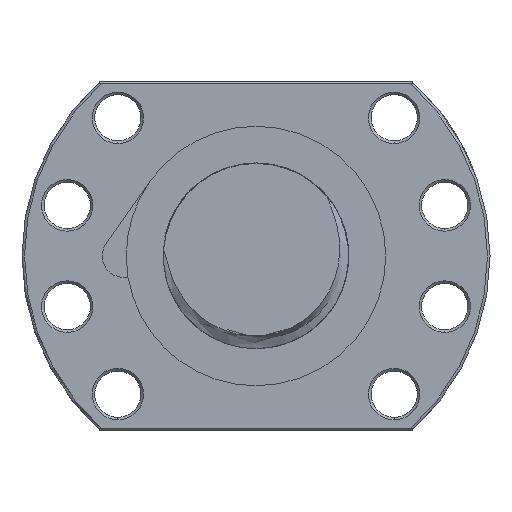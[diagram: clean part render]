
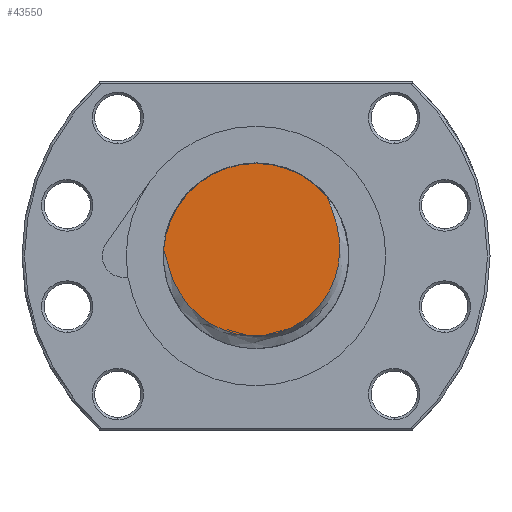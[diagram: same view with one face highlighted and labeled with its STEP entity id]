
A CAD part, left-side view. The second image highlights one B-rep face of the part: STEP entity #43550.
In plain terms, the highlighted planar face has unit normal (-1, 0, 0).
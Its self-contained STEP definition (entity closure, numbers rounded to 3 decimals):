
#29563 = CARTESIAN_POINT ( 'NONE',  ( -203., 0., 18. ) ) ;
#29564 = CARTESIAN_POINT ( 'NONE',  ( -203., 17.958, 1.228 ) ) ;
#29565 = DIRECTION ( 'NONE',  ( 0., 1., 0. ) ) ;
#29566 = DIRECTION ( 'NONE',  ( 1., 0., 0. ) ) ;
#29567 = AXIS2_PLACEMENT_3D ( 'NONE', #29573, #29566, #29565 ) ;
#29568 = CIRCLE ( 'NONE', #29567, 18. ) ;
#29573 = CARTESIAN_POINT ( 'NONE',  ( -203., 0., 0. ) ) ;
#32551 = CARTESIAN_POINT ( 'NONE',  ( -203., -13.808, 11.548 ) ) ;
#32552 = DIRECTION ( 'NONE',  ( 0., 1., 0. ) ) ;
#32553 = DIRECTION ( 'NONE',  ( 1., 0., 0. ) ) ;
#32554 = AXIS2_PLACEMENT_3D ( 'NONE', #32559, #32553, #32552 ) ;
#32555 = CIRCLE ( 'NONE', #32554, 18. ) ;
#32559 = CARTESIAN_POINT ( 'NONE',  ( -203., 0., 0. ) ) ;
#34564 = AXIS2_PLACEMENT_3D ( 'NONE', #34632, #34631, #34630 ) ;
#34566 = PLANE ( 'NONE',  #34564 ) ;
#34567 = FACE_OUTER_BOUND ( 'NONE', #43551, .T. ) ;
#34594 = CARTESIAN_POINT ( 'NONE',  ( -203., -3.482, -15.146 ) ) ;
#34595 = CARTESIAN_POINT ( 'NONE',  ( -203., -2.187, -15.395 ) ) ;
#34596 = CARTESIAN_POINT ( 'NONE',  ( -203., -1.527, -15.481 ) ) ;
#34597 = CARTESIAN_POINT ( 'NONE',  ( -203., 0.466, -15.619 ) ) ;
#34598 = CARTESIAN_POINT ( 'NONE',  ( -203., 1.781, -15.549 ) ) ;
#34599 = CARTESIAN_POINT ( 'NONE',  ( -203., 3.406, -15.267 ) ) ;
#34600 = CARTESIAN_POINT ( 'NONE',  ( -203., 3.73, -15.201 ) ) ;
#34601 = CARTESIAN_POINT ( 'NONE',  ( -203., 4.376, -15.049 ) ) ;
#34602 = CARTESIAN_POINT ( 'NONE',  ( -203., 4.699, -14.962 ) ) ;
#34603 = CARTESIAN_POINT ( 'NONE',  ( -203., 5.654, -14.676 ) ) ;
#34604 = CARTESIAN_POINT ( 'NONE',  ( -203., 6.273, -14.449 ) ) ;
#34605 = CARTESIAN_POINT ( 'NONE',  ( -203., 7.479, -13.925 ) ) ;
#34606 = CARTESIAN_POINT ( 'NONE',  ( -203., 8.066, -13.628 ) ) ;
#34607 = CARTESIAN_POINT ( 'NONE',  ( -203., 8.921, -13.131 ) ) ;
#34608 = CARTESIAN_POINT ( 'NONE',  ( -203., 9.202, -12.957 ) ) ;
#34609 = CARTESIAN_POINT ( 'NONE',  ( -203., 9.755, -12.591 ) ) ;
#34610 = CARTESIAN_POINT ( 'NONE',  ( -203., 10.029, -12.398 ) ) ;
#34611 = CARTESIAN_POINT ( 'NONE',  ( -203., 11.359, -11.403 ) ) ;
#34612 = CARTESIAN_POINT ( 'NONE',  ( -203., 12.314, -10.498 ) ) ;
#34613 = CARTESIAN_POINT ( 'NONE',  ( -203., 13.381, -9.24 ) ) ;
#34614 = CARTESIAN_POINT ( 'NONE',  ( -203., 13.588, -8.982 ) ) ;
#34615 = CARTESIAN_POINT ( 'NONE',  ( -203., 13.989, -8.453 ) ) ;
#34616 = CARTESIAN_POINT ( 'NONE',  ( -203., 14.184, -8.182 ) ) ;
#34617 = CARTESIAN_POINT ( 'NONE',  ( -203., 14.742, -7.357 ) ) ;
#34618 = CARTESIAN_POINT ( 'NONE',  ( -203., 15.081, -6.793 ) ) ;
#34619 = CARTESIAN_POINT ( 'NONE',  ( -203., 16.008, -5.06 ) ) ;
#34620 = CARTESIAN_POINT ( 'NONE',  ( -203., 16.506, -3.85 ) ) ;
#34621 = CARTESIAN_POINT ( 'NONE',  ( -203., 17.11, -1.973 ) ) ;
#34622 = CARTESIAN_POINT ( 'NONE',  ( -203., 17.287, -1.336 ) ) ;
#34623 = CARTESIAN_POINT ( 'NONE',  ( -203., 17.535, -0.373 ) ) ;
#34624 = CARTESIAN_POINT ( 'NONE',  ( -203., 17.614, -0.051 ) ) ;
#34625 = CARTESIAN_POINT ( 'NONE',  ( -203., 17.777, 0.591 ) ) ;
#34626 = CARTESIAN_POINT ( 'NONE',  ( -203., 17.859, 0.912 ) ) ;
#34627 = CARTESIAN_POINT ( 'NONE',  ( -203., 17.958, 1.228 ) ) ;
#34628 = B_SPLINE_CURVE_WITH_KNOTS ( 'NONE', 3,
 ( #34627, #34626, #34625, #34624, #34623, #34622, #34621, #34620, #34619, #34618, #34617, #34616, #34615, #34614, #34613, #34612, #34611, #34610, #34609, #34608, #34607, #34606, #34605, #34604, #34603, #34602, #34601, #34600, #34599, #34598, #34597, #34596, #34595, #34594, #34675, #34674, #34673, #34672, #34671, #34670, #34669, #34668, #34667, #34666, #34665, #34664, #34663, #34662, #34661, #34660, #34659, #34658, #34657, #34656, #34655, #34654, #34653, #34652, #34651, #34650, #34649, #34648, #34647, #34646, #34645, #34644, #34643, #34642, #34641, #34640 ),
 .UNSPECIFIED., .F., .F.,
 ( 4, 2, 2, 2, 2, 2, 2, 2, 2, 2, 2, 2, 2, 2, 2, 2, 2, 2, 2, 2, 2, 2, 2, 2, 2, 2, 2, 2, 2, 2, 2, 2, 2, 2, 4 ),
 ( 0.001, 0.002, 0.003, 0.005, 0.009, 0.011, 0.012, 0.013, 0.017, 0.018, 0.019, 0.021, 0.023, 0.024, 0.025, 0.028, 0.03, 0.032, 0.034, 0.036, 0.038, 0.039, 0.04, 0.044, 0.046, 0.048, 0.05, 0.051, 0.052, 0.056, 0.058, 0.06, 0.062, 0.063, 0.064 ),
 .UNSPECIFIED. ) ;
#34630 = DIRECTION ( 'NONE',  ( 0., 0., -1. ) ) ;
#34631 = DIRECTION ( 'NONE',  ( 1., 0., 0. ) ) ;
#34632 = CARTESIAN_POINT ( 'NONE',  ( -203., 0., 0. ) ) ;
#34640 = CARTESIAN_POINT ( 'NONE',  ( -203., -13.808, 11.548 ) ) ;
#34641 = CARTESIAN_POINT ( 'NONE',  ( -203., -13.914, 11.232 ) ) ;
#34642 = CARTESIAN_POINT ( 'NONE',  ( -203., -14.037, 10.923 ) ) ;
#34643 = CARTESIAN_POINT ( 'NONE',  ( -203., -14.283, 10.305 ) ) ;
#34644 = CARTESIAN_POINT ( 'NONE',  ( -203., -14.409, 9.996 ) ) ;
#34645 = CARTESIAN_POINT ( 'NONE',  ( -203., -14.775, 9.068 ) ) ;
#34646 = CARTESIAN_POINT ( 'NONE',  ( -203., -15.007, 8.443 ) ) ;
#34647 = CARTESIAN_POINT ( 'NONE',  ( -203., -15.421, 7.181 ) ) ;
#34648 = CARTESIAN_POINT ( 'NONE',  ( -203., -15.603, 6.543 ) ) ;
#34649 = CARTESIAN_POINT ( 'NONE',  ( -203., -15.906, 5.251 ) ) ;
#34650 = CARTESIAN_POINT ( 'NONE',  ( -203., -16.027, 4.595 ) ) ;
#34651 = CARTESIAN_POINT ( 'NONE',  ( -203., -16.29, 2.621 ) ) ;
#34652 = CARTESIAN_POINT ( 'NONE',  ( -203., -16.331, 1.304 ) ) ;
#34653 = CARTESIAN_POINT ( 'NONE',  ( -203., -16.2, -0.343 ) ) ;
#34654 = CARTESIAN_POINT ( 'NONE',  ( -203., -16.165, -0.672 ) ) ;
#34655 = CARTESIAN_POINT ( 'NONE',  ( -203., -16.075, -1.331 ) ) ;
#34656 = CARTESIAN_POINT ( 'NONE',  ( -203., -16.021, -1.661 ) ) ;
#34657 = CARTESIAN_POINT ( 'NONE',  ( -203., -15.831, -2.638 ) ) ;
#34658 = CARTESIAN_POINT ( 'NONE',  ( -203., -15.67, -3.277 ) ) ;
#34659 = CARTESIAN_POINT ( 'NONE',  ( -203., -15.274, -4.533 ) ) ;
#34660 = CARTESIAN_POINT ( 'NONE',  ( -203., -15.041, -5.15 ) ) ;
#34661 = CARTESIAN_POINT ( 'NONE',  ( -203., -14.5, -6.358 ) ) ;
#34662 = CARTESIAN_POINT ( 'NONE',  ( -203., -14.191, -6.953 ) ) ;
#34663 = CARTESIAN_POINT ( 'NONE',  ( -203., -13.172, -8.658 ) ) ;
#34664 = CARTESIAN_POINT ( 'NONE',  ( -203., -12.369, -9.701 ) ) ;
#34665 = CARTESIAN_POINT ( 'NONE',  ( -203., -11.206, -10.885 ) ) ;
#34666 = CARTESIAN_POINT ( 'NONE',  ( -203., -10.965, -11.117 ) ) ;
#34667 = CARTESIAN_POINT ( 'NONE',  ( -203., -10.471, -11.562 ) ) ;
#34668 = CARTESIAN_POINT ( 'NONE',  ( -203., -10.219, -11.777 ) ) ;
#34669 = CARTESIAN_POINT ( 'NONE',  ( -203., -9.445, -12.395 ) ) ;
#34670 = CARTESIAN_POINT ( 'NONE',  ( -203., -8.907, -12.774 ) ) ;
#34671 = CARTESIAN_POINT ( 'NONE',  ( -203., -7.786, -13.467 ) ) ;
#34672 = CARTESIAN_POINT ( 'NONE',  ( -203., -7.204, -13.78 ) ) ;
#34673 = CARTESIAN_POINT ( 'NONE',  ( -203., -5.994, -14.338 ) ) ;
#34674 = CARTESIAN_POINT ( 'NONE',  ( -203., -5.374, -14.579 ) ) ;
#34675 = CARTESIAN_POINT ( 'NONE',  ( -203., -4.119, -14.983 ) ) ;
#40884 = EDGE_CURVE ( 'NONE', #40885, #40886, #29568, .T. ) ;
#40885 = VERTEX_POINT ( 'NONE', #29564 ) ;
#40886 = VERTEX_POINT ( 'NONE', #29563 ) ;
#43340 = EDGE_CURVE ( 'NONE', #40886, #43341, #32555, .T. ) ;
#43341 = VERTEX_POINT ( 'NONE', #32551 ) ;
#43550 = ADVANCED_FACE ( 'NONE', ( #34567 ), #34566, .F. ) ;
#43551 = EDGE_LOOP ( 'NONE', ( #43552, #43553, #43555 ) ) ;
#43552 = ORIENTED_EDGE ( 'NONE', *, *, #40884, .F. ) ;
#43553 = ORIENTED_EDGE ( 'NONE', *, *, #43554, .T. ) ;
#43554 = EDGE_CURVE ( 'NONE', #40885, #43341, #34628, .T. ) ;
#43555 = ORIENTED_EDGE ( 'NONE', *, *, #43340, .F. ) ;
